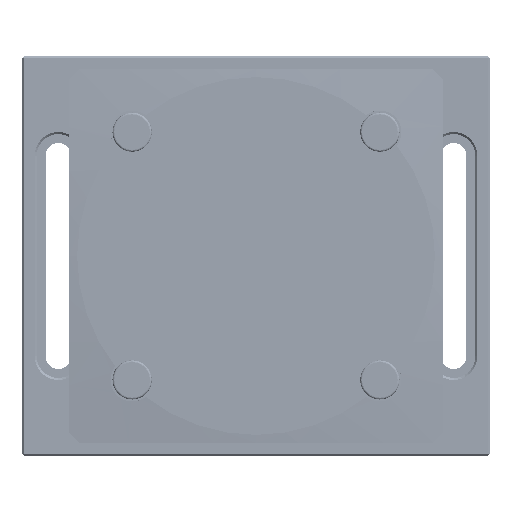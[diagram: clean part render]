
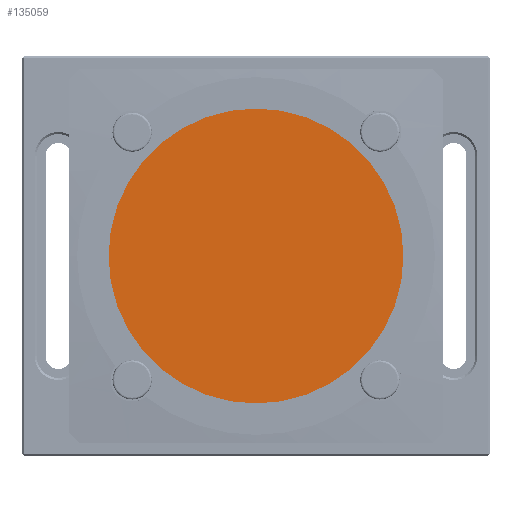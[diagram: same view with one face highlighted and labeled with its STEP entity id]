
A CAD part, front view. The second image highlights one B-rep face of the part: STEP entity #135059.
In plain terms, the highlighted planar face has unit normal (0, -1, 0) as drawn and (0, 1, 0) by its records, which use the part's own axes.
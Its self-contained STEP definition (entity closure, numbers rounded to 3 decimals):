
#134416=CARTESIAN_POINT('',(0.,-3.517,0.));
#134417=DIRECTION('',(0.,1.,0.));
#134418=DIRECTION('',(-1.,0.,0.));
#134419=AXIS2_PLACEMENT_3D('',#134416,#134417,#134418);
#134421=CARTESIAN_POINT('',(0.,-3.517,0.));
#134422=DIRECTION('',(0.,1.,0.));
#134423=DIRECTION('',(1.,0.,0.));
#134424=AXIS2_PLACEMENT_3D('',#134421,#134422,#134423);
#134898=CARTESIAN_POINT('',(-37.5,-3.517,0.));
#134899=CARTESIAN_POINT('',(37.5,-3.517,0.));
#134900=VERTEX_POINT('',#134898);
#134901=VERTEX_POINT('',#134899);
#135050=CARTESIAN_POINT('',(0.,-3.517,0.));
#135051=DIRECTION('',(0.,1.,0.));
#135052=DIRECTION('',(-1.,0.,0.));
#135053=AXIS2_PLACEMENT_3D('',#135050,#135051,#135052);
#135054=PLANE('',#135053);
#135055=ORIENTED_EDGE('',*,*,#135030,.F.);
#135056=ORIENTED_EDGE('',*,*,#135044,.F.);
#135057=EDGE_LOOP('',(#135055,#135056));
#135058=FACE_OUTER_BOUND('',#135057,.F.);
#135059=ADVANCED_FACE('',(#135058),#135054,.T.);
#134420=CIRCLE('',#134419,37.5);
#134425=CIRCLE('',#134424,37.5);
#135030=EDGE_CURVE('',#134900,#134901,#134420,.T.);
#135044=EDGE_CURVE('',#134901,#134900,#134425,.T.);
